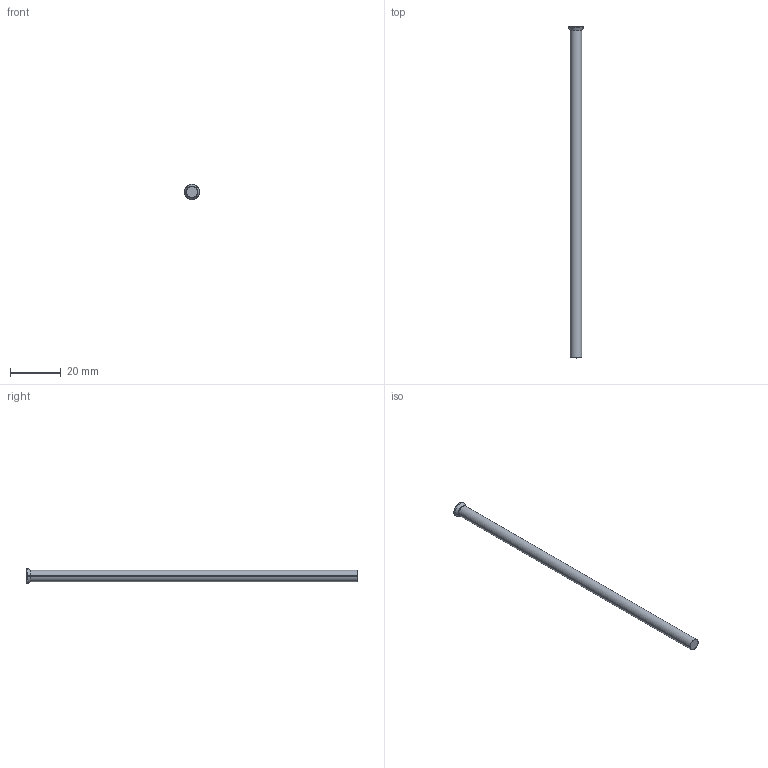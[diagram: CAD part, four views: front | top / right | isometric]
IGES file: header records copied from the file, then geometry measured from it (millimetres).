
Start section: SolidWorks IGES file using analytic representation for surfaces
Global section: file name: D:\Cleonir_arquivos\MT_15_07\Punções de Corte Tipo DA DIN 9861\PNDA04,5130H.igs; native system: SolidWorks 2013; preprocessor: SolidWorks 2013; author: Cleonir; date: 130731.211302; units: millimetre
Bounding box: 6 x 130.5 x 6 mm (x, y, z)
Surface area: 1897.8 mm2 (no closed solid volume)
Topology: 0 solids, 0 shells, 321 faces, 1947 edges, 1947 vertices
Faces by surface type: bspline 307, revolution 14
